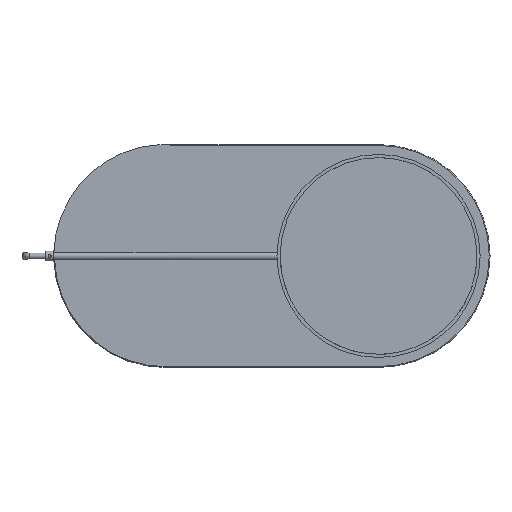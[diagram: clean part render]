
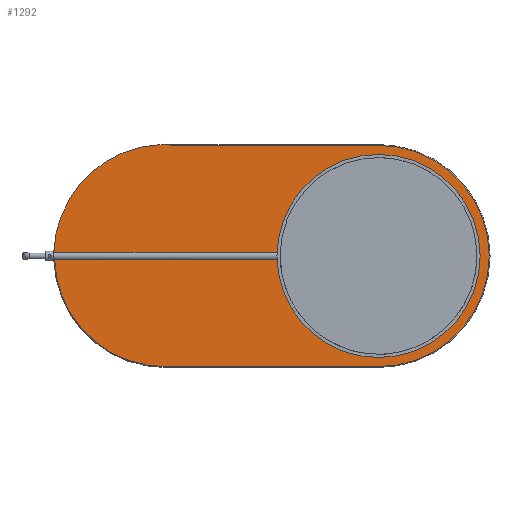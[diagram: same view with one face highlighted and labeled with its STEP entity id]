
A CAD part, top view. The second image highlights one B-rep face of the part: STEP entity #1292.
In plain terms, the highlighted planar face has unit normal (0, 0, 1).
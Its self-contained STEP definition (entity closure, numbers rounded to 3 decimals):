
#411=CARTESIAN_POINT('',(0.0,-280.,5.0));
#412=VERTEX_POINT('',#411);
#420=CARTESIAN_POINT('',(-540.,-280.,5.0));
#421=VERTEX_POINT('',#420);
#422=CARTESIAN_POINT('',(0.0,-280.,5.0));
#423=DIRECTION('',(-1.0,0.0,0.0));
#424=VECTOR('',#423,540.);
#425=LINE('',#422,#424);
#426=EDGE_CURVE('',#412,#421,#425,.T.);
#452=CARTESIAN_POINT('',(0.,280.,5.0));
#453=VERTEX_POINT('',#452);
#461=CARTESIAN_POINT('',(0.0,0.0,5.0));
#462=DIRECTION('',(0.0,0.0,-1.0));
#463=DIRECTION('',(1.0,0.0,0.0));
#464=AXIS2_PLACEMENT_3D('',#461,#462,#463);
#465=CIRCLE('',#464,280.);
#466=EDGE_CURVE('',#453,#412,#465,.T.);
#478=CARTESIAN_POINT('',(-819.739,-9.233,5.0));
#479=VERTEX_POINT('',#478);
#480=CARTESIAN_POINT('',(-539.889,0.002,5.0));
#481=DIRECTION('',(0.0,0.0,-1.));
#482=DIRECTION('',(-0.696,-0.718,0.0));
#483=AXIS2_PLACEMENT_3D('',#480,#481,#482);
#484=CIRCLE('',#483,280.002);
#485=EDGE_CURVE('',#421,#479,#484,.T.);
#512=CARTESIAN_POINT('',(-506.322,280.,5.0));
#513=VERTEX_POINT('',#512);
#549=CARTESIAN_POINT('',(-506.322,280.,5.0));
#550=DIRECTION('',(1.0,0.0,0.0));
#551=VECTOR('',#550,506.322);
#552=LINE('',#549,#551);
#553=EDGE_CURVE('',#513,#453,#552,.T.);
#1214=CARTESIAN_POINT('',(-250.83,-9.233,5.0));
#1215=VERTEX_POINT('',#1214);
#1216=CARTESIAN_POINT('',(-250.83,-9.233,5.0));
#1217=DIRECTION('',(-1.0,0.0,0.0));
#1218=VECTOR('',#1217,568.909);
#1219=LINE('',#1216,#1218);
#1220=EDGE_CURVE('',#1215,#479,#1219,.T.);
#1222=CARTESIAN_POINT('',(-250.83,9.233,5.0));
#1223=VERTEX_POINT('',#1222);
#1241=CARTESIAN_POINT('',(-821.74,9.233,5.0));
#1242=VERTEX_POINT('',#1241);
#1243=CARTESIAN_POINT('',(-821.74,9.233,5.0));
#1244=DIRECTION('',(1.0,0.0,0.0));
#1245=VECTOR('',#1244,570.91);
#1246=LINE('',#1243,#1245);
#1247=EDGE_CURVE('',#1242,#1223,#1246,.T.);
#1265=CARTESIAN_POINT('',(-269.923,-0.016,5.0));
#1266=DIRECTION('',(0.0,0.0,1.0));
#1267=DIRECTION('',(1.0,0.0,0.0));
#1268=AXIS2_PLACEMENT_3D('',#1265,#1266,#1267);
#1269=PLANE('',#1268);
#1270=CARTESIAN_POINT('',(-539.889,0.002,5.0));
#1271=DIRECTION('',(0.0,0.0,-1.0));
#1272=DIRECTION('',(-0.006,-1.,0.0));
#1273=AXIS2_PLACEMENT_3D('',#1270,#1271,#1272);
#1274=CIRCLE('',#1273,282.002);
#1275=EDGE_CURVE('',#1242,#513,#1274,.T.);
#1276=ORIENTED_EDGE('',*,*,#1275,.F.);
#1277=ORIENTED_EDGE('',*,*,#1247,.T.);
#1278=CARTESIAN_POINT('',(0.0,0.0,5.0));
#1279=DIRECTION('',(0.0,0.0,1.0));
#1280=DIRECTION('',(-1.0,0.0,0.0));
#1281=AXIS2_PLACEMENT_3D('',#1278,#1279,#1280);
#1282=CIRCLE('',#1281,251.0);
#1283=EDGE_CURVE('',#1215,#1223,#1282,.T.);
#1284=ORIENTED_EDGE('',*,*,#1283,.F.);
#1285=ORIENTED_EDGE('',*,*,#1220,.T.);
#1286=ORIENTED_EDGE('',*,*,#485,.F.);
#1287=ORIENTED_EDGE('',*,*,#426,.F.);
#1288=ORIENTED_EDGE('',*,*,#466,.F.);
#1289=ORIENTED_EDGE('',*,*,#553,.F.);
#1290=EDGE_LOOP('',(#1276,#1277,#1284,#1285,#1286,#1287,#1288,#1289));
#1291=FACE_OUTER_BOUND('',#1290,.T.);
#1292=ADVANCED_FACE('',(#1291),#1269,.T.);
